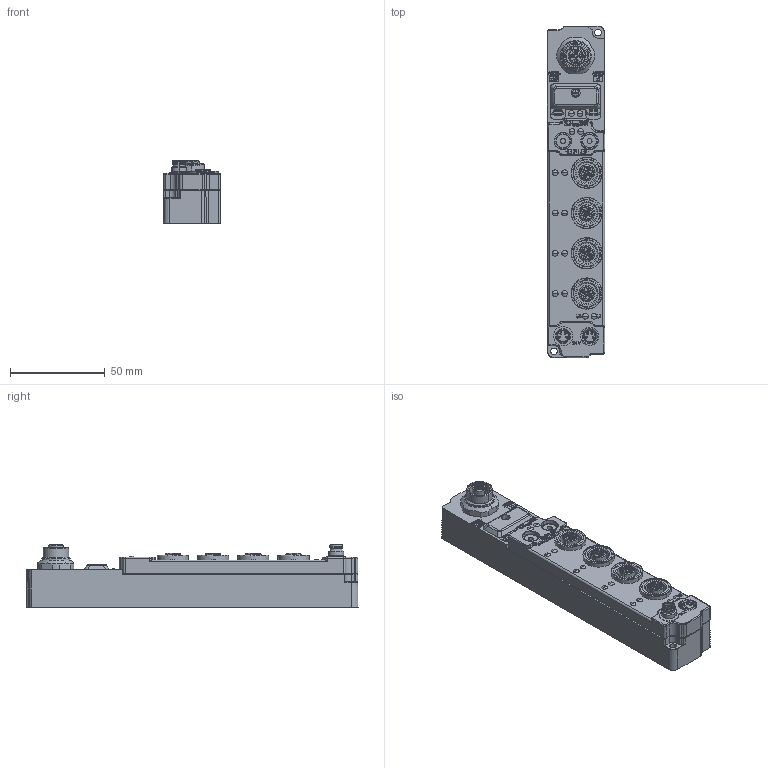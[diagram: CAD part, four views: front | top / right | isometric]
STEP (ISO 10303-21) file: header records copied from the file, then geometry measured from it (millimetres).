
FILE_DESCRIPTION (( 'STEP AP203' ), '1' );
FILE_NAME ('SDPB-40A-M12.step', '2012-11-12T20:09:15', ( 'Turck User' ), ( '' ), 'SwSTEP 2.0', 'SolidWorks 2012', '' );
FILE_SCHEMA (( 'CONFIG_CONTROL_DESIGN' ));
Length unit declared in the file: millimetre
Products named in the file (1): SDPB-40A-M12
Bounding box: 30.3 x 175.3 x 33.2 mm (x, y, z)
Volume: 91032.3 mm3; surface area: 45688 mm2
Topology: 1 solids, 1 shells, 2100 faces, 5270 edges, 3387 vertices
Faces by surface type: plane 810, cylinder 770, bspline 240, cone 229, torus 51
Entity records: 66675 total; most frequent: CARTESIAN_POINT 16168, DIRECTION 10591, ORIENTED_EDGE 10500, EDGE_CURVE 5250, AXIS2_PLACEMENT_3D 3937, VERTEX_POINT 3387, VECTOR 2717, LINE 2717
